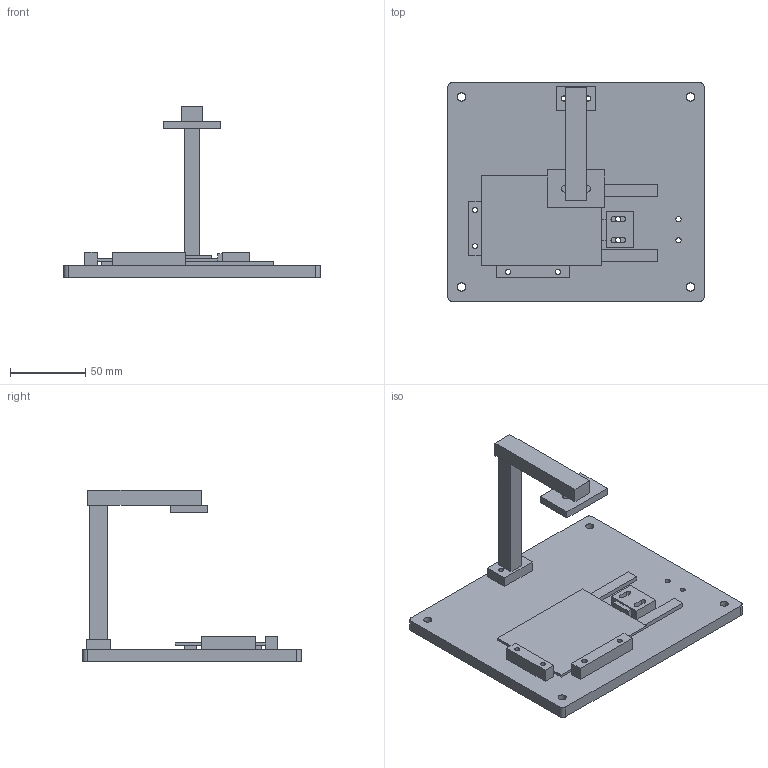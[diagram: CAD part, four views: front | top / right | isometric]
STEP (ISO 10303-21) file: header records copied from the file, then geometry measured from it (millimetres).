
FILE_DESCRIPTION(('Open CASCADE Model'),'2;1');
FILE_NAME('80 x 60 fixture','2026-11-23T13:40:05',('Author'),( 'Open CASCADE'),'Open CASCADE STEP processor 8.0','build123d', 'Unknown');
FILE_SCHEMA(('AUTOMOTIVE_DESIGN { 1 0 10303 214 1 1 1 1 }'));
Length unit declared in the file: millimetre
Products named in the file (12): 80 x 60 fixture; Baseplate; Front support rail; Rear support rail; X datum stop; Y datum stop; Sliding clamp; Compliant tip; Reference PCB; Camera mast; Camera arm; Slotted camera plate
Assembly tree (11 placements, depth 2):
  80 x 60 fixture
    Baseplate
    Front support rail
    Rear support rail
    X datum stop
    Y datum stop
    Sliding clamp
    Compliant tip
    Reference PCB
    Camera mast
    Camera arm
    Slotted camera plate
Bounding box: 170 x 145 x 114 mm (x, y, z)
Volume: 246389.4 mm3; surface area: 88034 mm2
Topology: 11 solids, 11 shells, 107 faces, 252 edges, 168 vertices
Faces by surface type: plane 77, cylinder 30
Full cylindrical faces by diameter (mm): 3.4 x16, 5.5 x4
Entity records: 6821 total; most frequent: CARTESIAN_POINT 1097, DIRECTION 1020, LINE 606, VECTOR 606, ORIENTED_EDGE 504, PCURVE 504, DEFINITIONAL_REPRESENTATION 504, EDGE_CURVE 252
